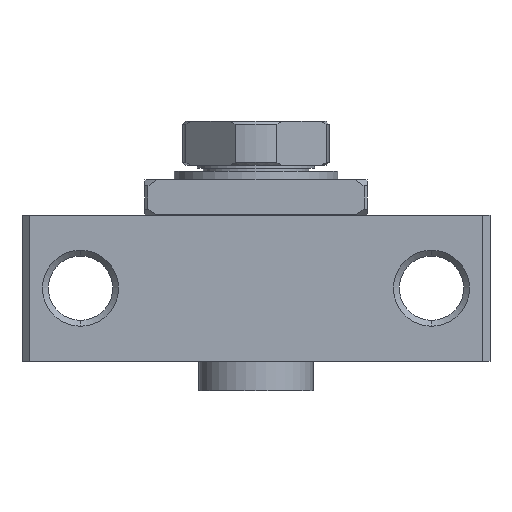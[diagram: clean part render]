
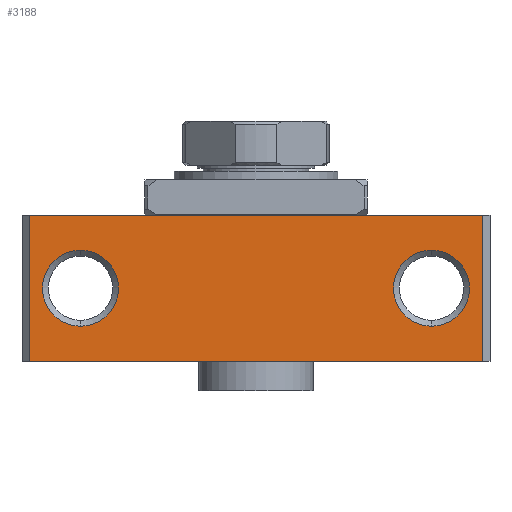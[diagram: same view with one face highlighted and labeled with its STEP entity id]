
A CAD part, front view. The second image highlights one B-rep face of the part: STEP entity #3188.
In plain terms, the highlighted planar face has unit normal (0, -1, 0).
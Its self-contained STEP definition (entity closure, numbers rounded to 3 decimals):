
#78 = VERTEX_POINT ( 'NONE', #579 ) ;
#191 = LINE ( 'NONE', #4025, #7139 ) ;
#284 = DIRECTION ( 'NONE',  ( 0., -1., 0. ) ) ;
#370 = LINE ( 'NONE', #5711, #2206 ) ;
#579 = CARTESIAN_POINT ( 'NONE',  ( 38.77, -30., -25. ) ) ;
#580 = CARTESIAN_POINT ( 'NONE',  ( -30., -30., -12.5 ) ) ;
#654 = DIRECTION ( 'NONE',  ( 0., -1., 0. ) ) ;
#928 = VERTEX_POINT ( 'NONE', #6596 ) ;
#955 = CIRCLE ( 'NONE', #3539, 6.5 ) ;
#984 = VERTEX_POINT ( 'NONE', #4047 ) ;
#1055 = CARTESIAN_POINT ( 'NONE',  ( -30., -30., -19. ) ) ;
#1130 = EDGE_CURVE ( 'NONE', #5253, #7105, #1392, .T. ) ;
#1175 = AXIS2_PLACEMENT_3D ( 'NONE', #580, #654, #2394 ) ;
#1318 = ORIENTED_EDGE ( 'NONE', *, *, #2244, .F. ) ;
#1392 = CIRCLE ( 'NONE', #4308, 6.5 ) ;
#1565 = LINE ( 'NONE', #4026, #3566 ) ;
#1583 = CARTESIAN_POINT ( 'NONE',  ( 30., -30., -6. ) ) ;
#1624 = CARTESIAN_POINT ( 'NONE',  ( 30., -30., -12.5 ) ) ;
#1673 = EDGE_CURVE ( 'NONE', #78, #6032, #191, .T. ) ;
#1727 = DIRECTION ( 'NONE',  ( 0., 0., 1. ) ) ;
#1741 = EDGE_LOOP ( 'NONE', ( #5251, #5219, #4336, #4979 ) ) ;
#1755 = DIRECTION ( 'NONE',  ( 1., 0., 0. ) ) ;
#1921 = EDGE_CURVE ( 'NONE', #7105, #5253, #955, .T. ) ;
#2010 = AXIS2_PLACEMENT_3D ( 'NONE', #2319, #4084, #2430 ) ;
#2206 = VECTOR ( 'NONE', #3946, 1000. ) ;
#2244 = EDGE_CURVE ( 'NONE', #4320, #984, #4099, .T. ) ;
#2319 = CARTESIAN_POINT ( 'NONE',  ( -30., -30., -12.5 ) ) ;
#2394 = DIRECTION ( 'NONE',  ( 0., 0., -1. ) ) ;
#2430 = DIRECTION ( 'NONE',  ( 0., 0., -1. ) ) ;
#2466 = ORIENTED_EDGE ( 'NONE', *, *, #1921, .F. ) ;
#2483 = CARTESIAN_POINT ( 'NONE',  ( 30., -30., -19. ) ) ;
#2752 = DIRECTION ( 'NONE',  ( 0., -1., 0. ) ) ;
#2875 = EDGE_CURVE ( 'NONE', #928, #78, #4635, .T. ) ;
#2934 = DIRECTION ( 'NONE',  ( 0., -1., 0. ) ) ;
#2973 = DIRECTION ( 'NONE',  ( 0., 0., -1. ) ) ;
#3188 = ADVANCED_FACE ( 'NONE', ( #7095, #4932, #6628 ), #6079, .T. ) ;
#3388 = EDGE_CURVE ( 'NONE', #984, #4320, #6754, .T. ) ;
#3478 = CARTESIAN_POINT ( 'NONE',  ( -38.77, -30., -25. ) ) ;
#3539 = AXIS2_PLACEMENT_3D ( 'NONE', #1624, #2752, #6374 ) ;
#3566 = VECTOR ( 'NONE', #1727, 1000. ) ;
#3658 = EDGE_LOOP ( 'NONE', ( #4825, #2466 ) ) ;
#3884 = ORIENTED_EDGE ( 'NONE', *, *, #3388, .F. ) ;
#3946 = DIRECTION ( 'NONE',  ( 1., 0., 0. ) ) ;
#4025 = CARTESIAN_POINT ( 'NONE',  ( 38.77, -30., -25. ) ) ;
#4026 = CARTESIAN_POINT ( 'NONE',  ( -38.77, -30., -25. ) ) ;
#4047 = CARTESIAN_POINT ( 'NONE',  ( -30., -30., -6. ) ) ;
#4084 = DIRECTION ( 'NONE',  ( 0., -1., 0. ) ) ;
#4099 = CIRCLE ( 'NONE', #2010, 6.5 ) ;
#4308 = AXIS2_PLACEMENT_3D ( 'NONE', #6976, #2934, #2973 ) ;
#4320 = VERTEX_POINT ( 'NONE', #1055 ) ;
#4336 = ORIENTED_EDGE ( 'NONE', *, *, #2875, .T. ) ;
#4635 = LINE ( 'NONE', #3478, #4751 ) ;
#4638 = EDGE_LOOP ( 'NONE', ( #3884, #1318 ) ) ;
#4751 = VECTOR ( 'NONE', #1755, 1000. ) ;
#4825 = ORIENTED_EDGE ( 'NONE', *, *, #1130, .F. ) ;
#4932 = FACE_BOUND ( 'NONE', #3658, .T. ) ;
#4979 = ORIENTED_EDGE ( 'NONE', *, *, #1673, .T. ) ;
#5219 = ORIENTED_EDGE ( 'NONE', *, *, #6843, .F. ) ;
#5251 = ORIENTED_EDGE ( 'NONE', *, *, #6292, .F. ) ;
#5253 = VERTEX_POINT ( 'NONE', #1583 ) ;
#5670 = CARTESIAN_POINT ( 'NONE',  ( -38.77, -30., 0. ) ) ;
#5711 = CARTESIAN_POINT ( 'NONE',  ( -38.77, -30., 0. ) ) ;
#6032 = VERTEX_POINT ( 'NONE', #6650 ) ;
#6079 = PLANE ( 'NONE',  #6633 ) ;
#6292 = EDGE_CURVE ( 'NONE', #7411, #6032, #370, .T. ) ;
#6322 = DIRECTION ( 'NONE',  ( 0., 0., 1. ) ) ;
#6374 = DIRECTION ( 'NONE',  ( 0., 0., -1. ) ) ;
#6522 = DIRECTION ( 'NONE',  ( 0., 0., -1. ) ) ;
#6591 = CARTESIAN_POINT ( 'NONE',  ( -38.77, -30., -25. ) ) ;
#6596 = CARTESIAN_POINT ( 'NONE',  ( -38.77, -30., -25. ) ) ;
#6628 = FACE_OUTER_BOUND ( 'NONE', #1741, .T. ) ;
#6633 = AXIS2_PLACEMENT_3D ( 'NONE', #6591, #284, #6522 ) ;
#6650 = CARTESIAN_POINT ( 'NONE',  ( 38.77, -30., 0. ) ) ;
#6754 = CIRCLE ( 'NONE', #1175, 6.5 ) ;
#6843 = EDGE_CURVE ( 'NONE', #928, #7411, #1565, .T. ) ;
#6976 = CARTESIAN_POINT ( 'NONE',  ( 30., -30., -12.5 ) ) ;
#7095 = FACE_BOUND ( 'NONE', #4638, .T. ) ;
#7105 = VERTEX_POINT ( 'NONE', #2483 ) ;
#7139 = VECTOR ( 'NONE', #6322, 1000. ) ;
#7411 = VERTEX_POINT ( 'NONE', #5670 ) ;
